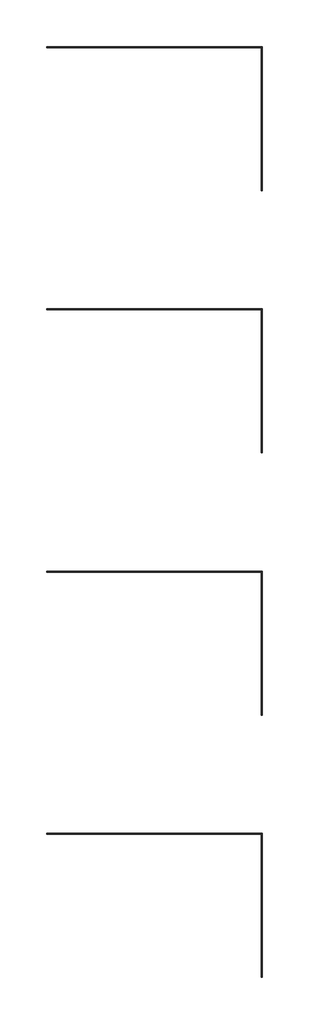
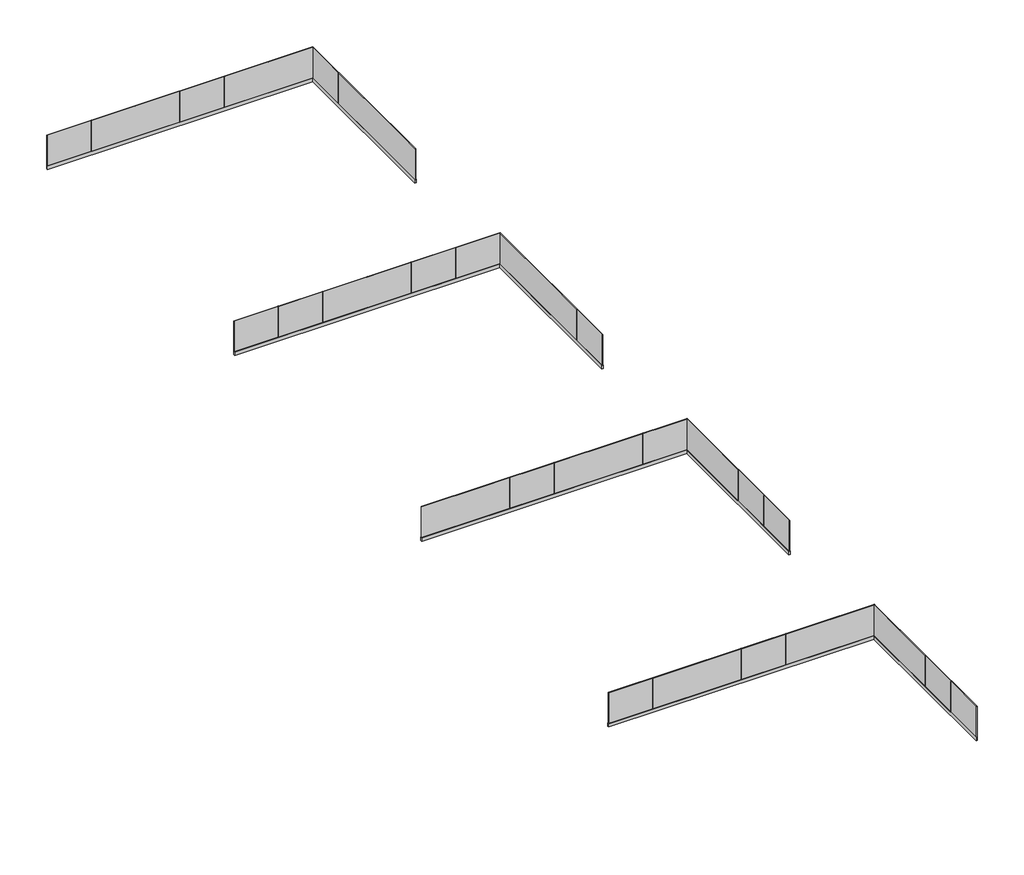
# One storey: 4 railings.
"""IFC4 building model written with IfcOpenShell, lengths in millimetres."""

from ifc_helpers import new_model, si_unit, origin, origin_with_axes, place, context, project, spatial, polyline, outline, extrude, faceted_brep, element, save

model = new_model("IFC4")

# Units and contexts
model_context = context("Model", 3, world=origin())
ifc_project = project(units=[si_unit("LENGTHUNIT", "METRE", prefix="MILLI")], contexts=[model_context])

# Site, building, storey
site = spatial("IfcSite", under=ifc_project)
building = spatial("IfcBuilding", under=site)
storey = spatial("IfcBuildingStorey", under=building, Name="レベル 1", Elevation=0.0)

# Railings
placement = place(None, origin())
element("IfcRailing", 1, ObjectType="バラストレイド スリムタイプ 壁付用 ガラス12mm", at=placement, inside=storey, context=model_context, shape_type="SolidModel", body=[
    faceted_brep([(-7072.0241721, 2633.337995, 1100.0), (-7072.0241721, 2633.337995, 0.0), (-7072.0241721, 2618.337995, 0.0), (-7072.0241721, 2618.337995, 1100.0), (1959.7758279, 2633.337995, 1100.0), (1959.7758279, 2633.337995, 0.0), (1944.7758279, 2618.337995, 0.0), (1944.7758279, 2618.337995, 1100.0), (1959.7758279, -3398.462005, 1100.0), (1944.7758279, -3398.462005, 1100.0), (1944.7758279, -3398.462005, 0.0), (1959.7758279, -3398.462005, 0.0)], [[[0, 1, 2, 3]], [[1, 0, 4, 5]], [[2, 1, 5, 6]], [[3, 2, 6, 7]], [[0, 3, 7, 4]], [[8, 9, 10, 11]], [[5, 4, 8, 11]], [[6, 5, 11, 10]], [[7, 6, 10, 9]], [[4, 7, 9, 8]]]),
    faceted_brep([(-7072.0241721, 2601.537995, 0.0), (-7072.0241721, 2650.037995, 0.0), (-7072.0241721, 2650.037995, -124.0), (-7072.0241721, 2601.537995, -124.0), (1927.9758279, 2601.537995, 0.0), (1976.4758279, 2650.037995, 0.0), (1976.4758279, 2650.037995, -124.0), (1927.9758279, 2601.537995, -124.0), (1927.9758279, -3398.462005, 0.0), (1927.9758279, -3398.462005, -124.0), (1976.4758279, -3398.462005, -124.0), (1976.4758279, -3398.462005, 0.0)], [[[0, 1, 2, 3]], [[1, 0, 4, 5]], [[3, 2, 6, 7]], [[0, 3, 7, 4]], [[8, 9, 10, 11]], [[5, 4, 8, 11]], [[7, 6, 10, 9]], [[4, 7, 9, 8]], [[2, 1, 5, 6]], [[6, 5, 11, 10]]]),
    extrude(outline(polyline([(1958.2758279, -1882.387005), (1958.2758279, -1902.387005), (1946.2758279, -1902.387005), (1946.2758279, -1882.387005), (1958.2758279, -1882.387005)])), origin_with_axes(), (0.0, 0.0, 1.0), 1100.0),
    extrude(outline(polyline([(1958.2758279, -376.312005), (1958.2758279, -396.312005), (1946.2758279, -396.312005), (1946.2758279, -376.312005), (1958.2758279, -376.312005)])), origin_with_axes(), (0.0, 0.0, 1.0), 1100.0),
    extrude(outline(polyline([(1958.2758279, 1129.762995), (1958.2758279, 1109.762995), (1946.2758279, 1109.762995), (1946.2758279, 1129.762995), (1958.2758279, 1129.762995)])), origin_with_axes(), (0.0, 0.0, 1.0), 1100.0),
    extrude(outline(polyline([(438.2258279, 2631.837995), (458.2258279, 2631.837995), (458.2258279, 2619.837995), (438.2258279, 2619.837995), (438.2258279, 2631.837995)])), origin_with_axes(), (0.0, 0.0, 1.0), 1100.0),
    extrude(outline(polyline([(-1065.8241721, 2631.837995), (-1045.8241721, 2631.837995), (-1045.8241721, 2619.837995), (-1065.8241721, 2619.837995), (-1065.8241721, 2631.837995)])), origin_with_axes(), (0.0, 0.0, 1.0), 1100.0),
    extrude(outline(polyline([(-2569.8741721, 2631.837995), (-2549.8741721, 2631.837995), (-2549.8741721, 2619.837995), (-2569.8741721, 2619.837995), (-2569.8741721, 2631.837995)])), origin_with_axes(), (0.0, 0.0, 1.0), 1100.0),
    extrude(outline(polyline([(-4073.9241721, 2631.837995), (-4053.9241721, 2631.837995), (-4053.9241721, 2619.837995), (-4073.9241721, 2619.837995), (-4073.9241721, 2631.837995)])), origin_with_axes(), (0.0, 0.0, 1.0), 1100.0),
    extrude(outline(polyline([(-5577.9741721, 2631.837995), (-5557.9741721, 2631.837995), (-5557.9741721, 2619.837995), (-5577.9741721, 2619.837995), (-5577.9741721, 2631.837995)])), origin_with_axes(), (0.0, 0.0, 1.0), 1100.0),
    extrude(outline(polyline([(1946.2758279, 2631.837995), (1958.2758279, 2631.837995), (1958.2758279, 2619.837995), (1946.2758279, 2619.837995), (1946.2758279, 2631.837995)])), origin_with_axes(), (0.0, 0.0, 1.0), 1100.0),
])
element("IfcRailing", 2, ObjectType="バラストレイド スリムタイプ 壁付用 ガラス 15mm", at=placement, inside=storey, context=model_context, shape_type="SolidModel", body=[
    faceted_brep([(-7072.0241721, -8366.662005, 1100.0), (-7072.0241721, -8366.662005, 0.0), (-7072.0241721, -8381.662005, 0.0), (-7072.0241721, -8381.662005, 1100.0), (1959.7758279, -8366.662005, 1100.0), (1959.7758279, -8366.662005, 0.0), (1944.7758279, -8381.662005, 0.0), (1944.7758279, -8381.662005, 1100.0), (1959.7758279, -14398.462005, 1100.0), (1944.7758279, -14398.462005, 1100.0), (1944.7758279, -14398.462005, 0.0), (1959.7758279, -14398.462005, 0.0)], [[[0, 1, 2, 3]], [[1, 0, 4, 5]], [[2, 1, 5, 6]], [[3, 2, 6, 7]], [[0, 3, 7, 4]], [[8, 9, 10, 11]], [[5, 4, 8, 11]], [[6, 5, 11, 10]], [[7, 6, 10, 9]], [[4, 7, 9, 8]]]),
    faceted_brep([(-7072.0241721, -8398.462005, 0.0), (-7072.0241721, -8349.962005, 0.0), (-7072.0241721, -8349.962005, -124.0), (-7072.0241721, -8398.462005, -124.0), (1927.9758279, -8398.462005, 0.0), (1976.4758279, -8349.962005, 0.0), (1976.4758279, -8349.962005, -124.0), (1927.9758279, -8398.462005, -124.0), (1927.9758279, -14398.462005, 0.0), (1927.9758279, -14398.462005, -124.0), (1976.4758279, -14398.462005, -124.0), (1976.4758279, -14398.462005, 0.0)], [[[0, 1, 2, 3]], [[1, 0, 4, 5]], [[3, 2, 6, 7]], [[0, 3, 7, 4]], [[8, 9, 10, 11]], [[5, 4, 8, 11]], [[7, 6, 10, 9]], [[4, 7, 9, 8]], [[2, 1, 5, 6]], [[6, 5, 11, 10]]]),
    extrude(outline(polyline([(1959.7758279, -12882.387005), (1959.7758279, -12902.387005), (1944.7758279, -12902.387005), (1944.7758279, -12882.387005), (1959.7758279, -12882.387005)])), origin_with_axes(), (0.0, 0.0, 1.0), 1100.0),
    extrude(outline(polyline([(1959.7758279, -11376.312005), (1959.7758279, -11396.312005), (1944.7758279, -11396.312005), (1944.7758279, -11376.312005), (1959.7758279, -11376.312005)])), origin_with_axes(), (0.0, 0.0, 1.0), 1100.0),
    extrude(outline(polyline([(1959.7758279, -9870.237005), (1959.7758279, -9890.237005), (1944.7758279, -9890.237005), (1944.7758279, -9870.237005), (1959.7758279, -9870.237005)])), origin_with_axes(), (0.0, 0.0, 1.0), 1100.0),
    extrude(outline(polyline([(438.2258279, -8366.662005), (458.2258279, -8366.662005), (458.2258279, -8381.662005), (438.2258279, -8381.662005), (438.2258279, -8366.662005)])), origin_with_axes(), (0.0, 0.0, 1.0), 1100.0),
    extrude(outline(polyline([(-1065.8241721, -8366.662005), (-1045.8241721, -8366.662005), (-1045.8241721, -8381.662005), (-1065.8241721, -8381.662005), (-1065.8241721, -8366.662005)])), origin_with_axes(), (0.0, 0.0, 1.0), 1100.0),
    extrude(outline(polyline([(-2569.8741721, -8366.662005), (-2549.8741721, -8366.662005), (-2549.8741721, -8381.662005), (-2569.8741721, -8381.662005), (-2569.8741721, -8366.662005)])), origin_with_axes(), (0.0, 0.0, 1.0), 1100.0),
    extrude(outline(polyline([(-4073.9241721, -8366.662005), (-4053.9241721, -8366.662005), (-4053.9241721, -8381.662005), (-4073.9241721, -8381.662005), (-4073.9241721, -8366.662005)])), origin_with_axes(), (0.0, 0.0, 1.0), 1100.0),
    extrude(outline(polyline([(-5577.9741721, -8366.662005), (-5557.9741721, -8366.662005), (-5557.9741721, -8381.662005), (-5577.9741721, -8381.662005), (-5577.9741721, -8366.662005)])), origin_with_axes(), (0.0, 0.0, 1.0), 1100.0),
    extrude(outline(polyline([(1944.7758279, -8366.662005), (1959.7758279, -8366.662005), (1959.7758279, -8381.662005), (1944.7758279, -8381.662005), (1944.7758279, -8366.662005)])), origin_with_axes(), (0.0, 0.0, 1.0), 1100.0),
])
element("IfcRailing", 3, ObjectType="バラストレイド スリムタイプ 壁付用 ガラス8+8mm", at=placement, inside=storey, context=model_context, shape_type="SolidModel", body=[
    faceted_brep([(-7072.0241721, -19365.412005, 1100.0), (-7072.0241721, -19365.412005, 0.0), (-7072.0241721, -19382.912005, 0.0), (-7072.0241721, -19382.912005, 1100.0), (1961.0258279, -19365.412005, 1100.0), (1961.0258279, -19365.412005, 0.0), (1943.5258279, -19382.912005, 0.0), (1943.5258279, -19382.912005, 1100.0), (1961.0258279, -25398.462005, 1100.0), (1943.5258279, -25398.462005, 1100.0), (1943.5258279, -25398.462005, 0.0), (1961.0258279, -25398.462005, 0.0)], [[[0, 1, 2, 3]], [[1, 0, 4, 5]], [[2, 1, 5, 6]], [[3, 2, 6, 7]], [[0, 3, 7, 4]], [[8, 9, 10, 11]], [[5, 4, 8, 11]], [[6, 5, 11, 10]], [[7, 6, 10, 9]], [[4, 7, 9, 8]]]),
    faceted_brep([(-7072.0241721, -19398.462005, 0.0), (-7072.0241721, -19349.962005, 0.0), (-7072.0241721, -19349.962005, -124.0), (-7072.0241721, -19398.462005, -124.0), (1927.9758279, -19398.462005, 0.0), (1976.4758279, -19349.962005, 0.0), (1976.4758279, -19349.962005, -124.0), (1927.9758279, -19398.462005, -124.0), (1927.9758279, -25398.462005, 0.0), (1927.9758279, -25398.462005, -124.0), (1976.4758279, -25398.462005, -124.0), (1976.4758279, -25398.462005, 0.0)], [[[0, 1, 2, 3]], [[1, 0, 4, 5]], [[3, 2, 6, 7]], [[0, 3, 7, 4]], [[8, 9, 10, 11]], [[5, 4, 8, 11]], [[7, 6, 10, 9]], [[4, 7, 9, 8]], [[2, 1, 5, 6]], [[6, 5, 11, 10]]]),
    extrude(outline(polyline([(1961.0258279, -23882.387005), (1961.0258279, -23902.387005), (1943.5258279, -23902.387005), (1943.5258279, -23882.387005), (1961.0258279, -23882.387005)])), origin_with_axes(), (0.0, 0.0, 1.0), 1100.0),
    extrude(outline(polyline([(1961.0258279, -22376.312005), (1961.0258279, -22396.312005), (1943.5258279, -22396.312005), (1943.5258279, -22376.312005), (1961.0258279, -22376.312005)])), origin_with_axes(), (0.0, 0.0, 1.0), 1100.0),
    extrude(outline(polyline([(1961.0258279, -20870.237005), (1961.0258279, -20890.237005), (1943.5258279, -20890.237005), (1943.5258279, -20870.237005), (1961.0258279, -20870.237005)])), origin_with_axes(), (0.0, 0.0, 1.0), 1100.0),
    extrude(outline(polyline([(438.2258279, -19365.412005), (458.2258279, -19365.412005), (458.2258279, -19382.912005), (438.2258279, -19382.912005), (438.2258279, -19365.412005)])), origin_with_axes(), (0.0, 0.0, 1.0), 1100.0),
    extrude(outline(polyline([(-1065.8241721, -19365.412005), (-1045.8241721, -19365.412005), (-1045.8241721, -19382.912005), (-1065.8241721, -19382.912005), (-1065.8241721, -19365.412005)])), origin_with_axes(), (0.0, 0.0, 1.0), 1100.0),
    extrude(outline(polyline([(-2569.8741721, -19365.412005), (-2549.8741721, -19365.412005), (-2549.8741721, -19382.912005), (-2569.8741721, -19382.912005), (-2569.8741721, -19365.412005)])), origin_with_axes(), (0.0, 0.0, 1.0), 1100.0),
    extrude(outline(polyline([(-4073.9241721, -19365.412005), (-4053.9241721, -19365.412005), (-4053.9241721, -19382.912005), (-4073.9241721, -19382.912005), (-4073.9241721, -19365.412005)])), origin_with_axes(), (0.0, 0.0, 1.0), 1100.0),
    extrude(outline(polyline([(-5577.9741721, -19365.412005), (-5557.9741721, -19365.412005), (-5557.9741721, -19382.912005), (-5577.9741721, -19382.912005), (-5577.9741721, -19365.412005)])), origin_with_axes(), (0.0, 0.0, 1.0), 1100.0),
    extrude(outline(polyline([(1943.5258279, -19365.412005), (1961.0258279, -19365.412005), (1961.0258279, -19382.912005), (1943.5258279, -19382.912005), (1943.5258279, -19365.412005)])), origin_with_axes(), (0.0, 0.0, 1.0), 1100.0),
])
element("IfcRailing", 4, ObjectType="バラストレイド スリムタイプ 壁付用 ガラス10+10mm", at=placement, inside=storey, context=model_context, shape_type="SolidModel", body=[
    faceted_brep([(-7072.0241721, -30363.412005, 1100.0), (-7072.0241721, -30363.412005, 0.0), (-7072.0241721, -30384.912005, 0.0), (-7072.0241721, -30384.912005, 1100.0), (1963.0258279, -30363.412005, 1100.0), (1963.0258279, -30363.412005, 0.0), (1941.5258279, -30384.912005, 0.0), (1941.5258279, -30384.912005, 1100.0), (1963.0258279, -36398.462005, 1100.0), (1941.5258279, -36398.462005, 1100.0), (1941.5258279, -36398.462005, 0.0), (1963.0258279, -36398.462005, 0.0)], [[[0, 1, 2, 3]], [[1, 0, 4, 5]], [[2, 1, 5, 6]], [[3, 2, 6, 7]], [[0, 3, 7, 4]], [[8, 9, 10, 11]], [[5, 4, 8, 11]], [[6, 5, 11, 10]], [[7, 6, 10, 9]], [[4, 7, 9, 8]]]),
    faceted_brep([(-7072.0241721, -30398.462005, 0.0), (-7072.0241721, -30349.962005, 0.0), (-7072.0241721, -30349.962005, -124.0), (-7072.0241721, -30398.462005, -124.0), (1927.9758279, -30398.462005, 0.0), (1976.4758279, -30349.962005, 0.0), (1976.4758279, -30349.962005, -124.0), (1927.9758279, -30398.462005, -124.0), (1927.9758279, -36398.462005, 0.0), (1927.9758279, -36398.462005, -124.0), (1976.4758279, -36398.462005, -124.0), (1976.4758279, -36398.462005, 0.0)], [[[0, 1, 2, 3]], [[1, 0, 4, 5]], [[3, 2, 6, 7]], [[0, 3, 7, 4]], [[8, 9, 10, 11]], [[5, 4, 8, 11]], [[7, 6, 10, 9]], [[4, 7, 9, 8]], [[2, 1, 5, 6]], [[6, 5, 11, 10]]]),
    extrude(outline(polyline([(1963.0258279, -34882.387005), (1963.0258279, -34902.387005), (1941.5258279, -34902.387005), (1941.5258279, -34882.387005), (1963.0258279, -34882.387005)])), origin_with_axes(), (0.0, 0.0, 1.0), 1100.0),
    extrude(outline(polyline([(1963.0258279, -33376.312005), (1963.0258279, -33396.312005), (1941.5258279, -33396.312005), (1941.5258279, -33376.312005), (1963.0258279, -33376.312005)])), origin_with_axes(), (0.0, 0.0, 1.0), 1100.0),
    extrude(outline(polyline([(1963.0258279, -31870.237005), (1963.0258279, -31890.237005), (1941.5258279, -31890.237005), (1941.5258279, -31870.237005), (1963.0258279, -31870.237005)])), origin_with_axes(), (0.0, 0.0, 1.0), 1100.0),
    extrude(outline(polyline([(438.2258279, -30363.412005), (458.2258279, -30363.412005), (458.2258279, -30384.912005), (438.2258279, -30384.912005), (438.2258279, -30363.412005)])), origin_with_axes(), (0.0, 0.0, 1.0), 1100.0),
    extrude(outline(polyline([(-1065.8241721, -30363.412005), (-1045.8241721, -30363.412005), (-1045.8241721, -30384.912005), (-1065.8241721, -30384.912005), (-1065.8241721, -30363.412005)])), origin_with_axes(), (0.0, 0.0, 1.0), 1100.0),
    extrude(outline(polyline([(-2569.8741721, -30363.412005), (-2549.8741721, -30363.412005), (-2549.8741721, -30384.912005), (-2569.8741721, -30384.912005), (-2569.8741721, -30363.412005)])), origin_with_axes(), (0.0, 0.0, 1.0), 1100.0),
    extrude(outline(polyline([(-4073.9241721, -30363.412005), (-4053.9241721, -30363.412005), (-4053.9241721, -30384.912005), (-4073.9241721, -30384.912005), (-4073.9241721, -30363.412005)])), origin_with_axes(), (0.0, 0.0, 1.0), 1100.0),
    extrude(outline(polyline([(-5577.9741721, -30363.412005), (-5557.9741721, -30363.412005), (-5557.9741721, -30384.912005), (-5577.9741721, -30384.912005), (-5577.9741721, -30363.412005)])), origin_with_axes(), (0.0, 0.0, 1.0), 1100.0),
    extrude(outline(polyline([(1941.5258279, -30363.412005), (1963.0258279, -30363.412005), (1963.0258279, -30384.912005), (1941.5258279, -30384.912005), (1941.5258279, -30363.412005)])), origin_with_axes(), (0.0, 0.0, 1.0), 1100.0),
])

save(model, "model.ifc")
